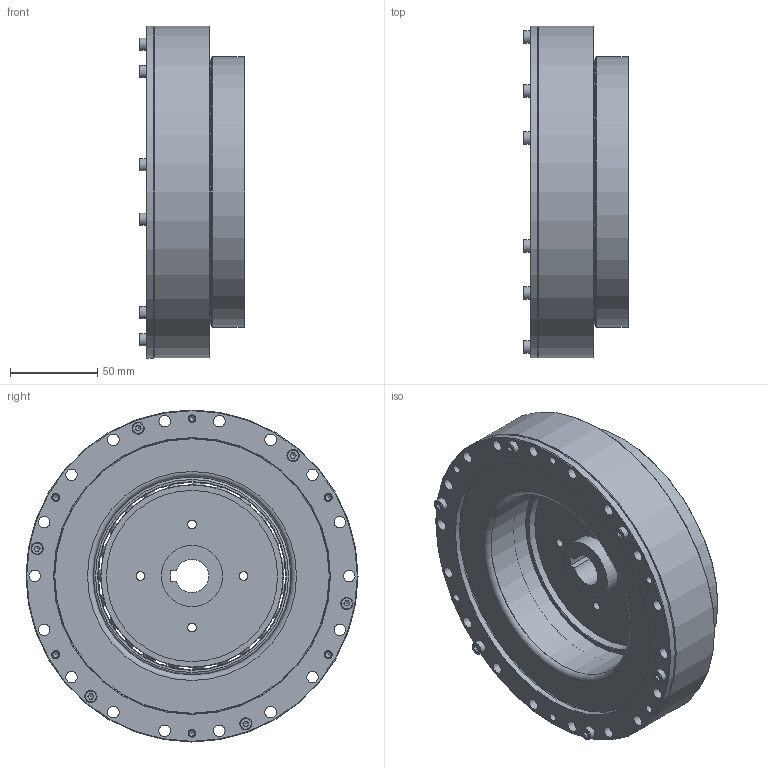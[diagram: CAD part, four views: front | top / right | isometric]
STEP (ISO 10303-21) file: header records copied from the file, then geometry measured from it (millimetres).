
FILE_DESCRIPTION (( 'STEP AP203' ), '1' );
FILE_NAME ('LHSG-45-XXX-C-I.STEP', '2024-07-19T02:13:29', ( '' ), ( '' ), 'SwSTEP 2.0', 'SolidWorks 2023', '' );
FILE_SCHEMA (( 'CONFIG_CONTROL_DESIGN' ));
Length unit declared in the file: millimetre
Products named in the file (1): LHSG-45-XXX-C-I
Bounding box: 60.5 x 190 x 190 mm (x, y, z)
Volume: 800536.3 mm3; surface area: 350674.6 mm2
Topology: 54 solids, 54 shells, 967 faces, 2268 edges, 1401 vertices
Faces by surface type: plane 445, cylinder 255, cone 199, torus 45, sphere 23
Full cylindrical faces by diameter (mm): 3.3 x20, 4 x17, 4.2 x4, 4.5 x20, 5 x8, 5.5 x4, 6.6 x40, 6.8 x12, 7 x6, 8.4 x11, 8.5 x4, 9 x12, 10 x4, 35 x1, 40 x2, 76 x2, 83.43 x2, 88.912 x2, 89 x1, 90 x1, 91.496 x1, 98 x1, 104.26 x1, 107.26 x2, 112.807 x1, 113.3 x1, 113.598 x1, 114.598 x1, 117.126 x1, 120 x2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
Entity records: 24607 total; most frequent: DIRECTION 4474, CARTESIAN_POINT 4204, ORIENTED_EDGE 3408, AXIS2_PLACEMENT_3D 1890, EDGE_CURVE 1704, EDGE_LOOP 1570, VERTEX_POINT 1268, FACE_OUTER_BOUND 1197
